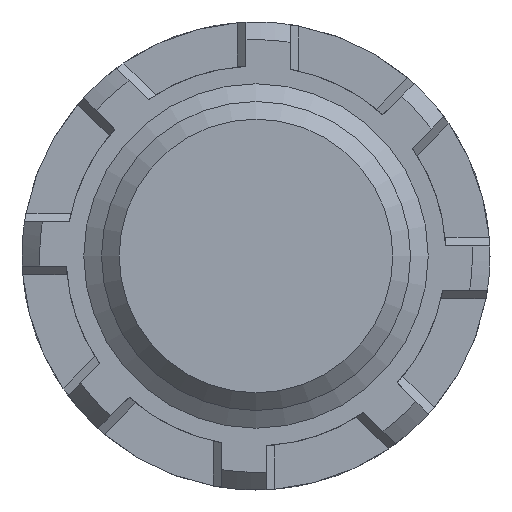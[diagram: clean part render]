
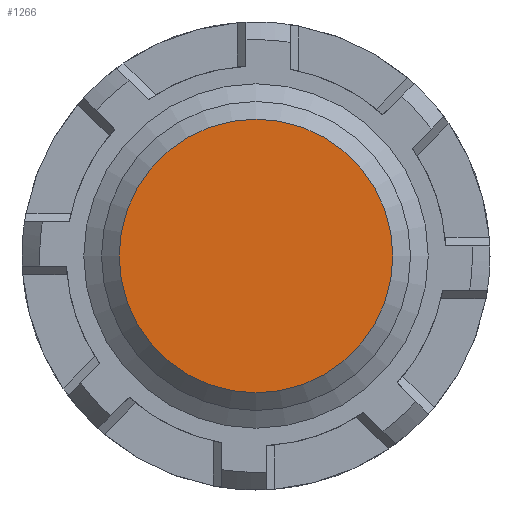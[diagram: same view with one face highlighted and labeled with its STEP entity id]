
A CAD part, front view. The second image highlights one B-rep face of the part: STEP entity #1266.
In plain terms, the highlighted planar face has unit normal (0, -1, 0).
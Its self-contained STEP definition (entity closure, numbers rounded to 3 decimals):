
#99=CIRCLE('',#1431,1.55);
#173=FACE_OUTER_BOUND('',#241,.T.);
#241=EDGE_LOOP('',(#1093));
#572=VERTEX_POINT('',#2238);
#757=EDGE_CURVE('',#572,#572,#99,.T.);
#1093=ORIENTED_EDGE('',*,*,#757,.F.);
#1205=PLANE('',#1434);
#1266=ADVANCED_FACE('',(#173),#1205,.T.);
#1431=AXIS2_PLACEMENT_3D('',#2239,#1804,#1805);
#1434=AXIS2_PLACEMENT_3D('',#2245,#1811,#1812);
#1804=DIRECTION('center_axis',(0.,1.,0.));
#1805=DIRECTION('ref_axis',(-1.,0.,0.));
#1811=DIRECTION('center_axis',(0.,-1.,0.));
#1812=DIRECTION('ref_axis',(0.,0.,-1.));
#2238=CARTESIAN_POINT('',(1.55,0.,0.));
#2239=CARTESIAN_POINT('Origin',(0.,0.,0.));
#2245=CARTESIAN_POINT('Origin',(0.,0.,0.));
